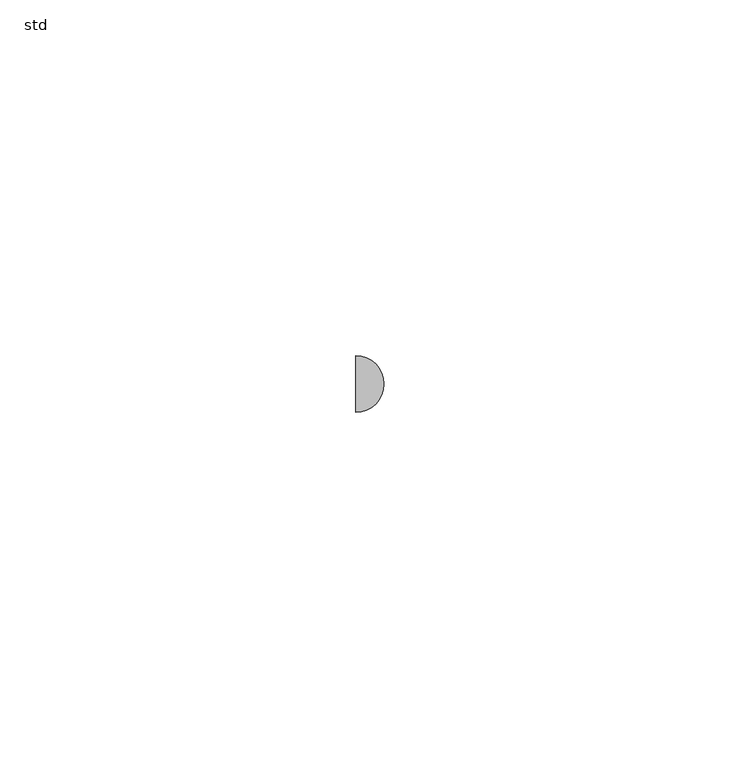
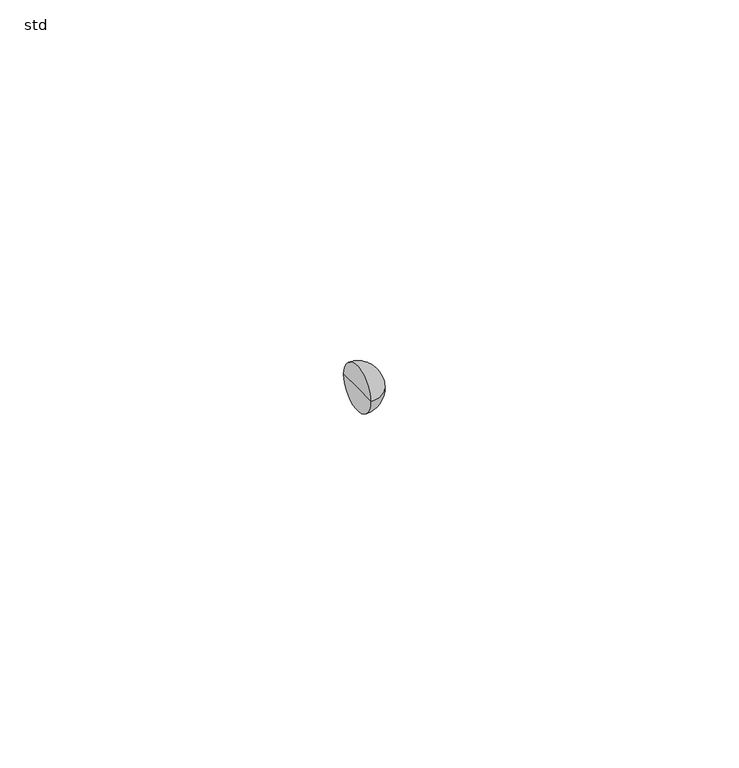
"""IFC4 building model written with IfcOpenShell, lengths in millimetres: pipe fitting geometry, PIF_ST_UN_GM-X double bend_ACO : std."""

import ifcopenshell
import ifcopenshell.guid

model = None  # the IFC model being written
_history = None  # IfcOwnerHistory: only IFC2X3 demands one
_inside = {}  # id of a spatial element -> (the spatial element, [elements in it])
_under = {}  # id of a project, library or spatial element -> (it, [spatial elements below it])
_declared = {}  # id of a project -> (the project, [libraries it declares])
_typed = {}  # id of a type object -> (the type object, [elements of that type])
_made_of = {}  # id of a material, layer set ... -> (it, [elements and type objects made of it])


def new_model(schema):
    """Start an empty IFC model of exactly this schema.

    Asked for "IFC4X3", IfcOpenShell would pick the latest addendum, in which some entities
    have other attributes; the version numbers below select the first issue.
    IFC2X3 requires an IfcOwnerHistory on every rooted entity: one is made here for all.
    """
    global model, _history
    if schema == "IFC4X3":
        model = ifcopenshell.file(schema_version=(4, 3, 0, 0))
    else:
        model = ifcopenshell.file(schema=schema)
    _inside.clear()
    _under.clear()
    _declared.clear()
    _typed.clear()
    _made_of.clear()
    _history = None
    if model.schema == "IFC2X3":
        org = make("IfcOrganization", Name="unknown")
        user = make(
            "IfcPersonAndOrganization",
            ThePerson=make("IfcPerson", FamilyName="unknown"),
            TheOrganization=org,
        )
        app = make(
            "IfcApplication",
            ApplicationDeveloper=org,
            Version="unknown",
            ApplicationFullName="unknown",
            ApplicationIdentifier="unknown",
        )
        _history = make(
            "IfcOwnerHistory",
            OwningUser=user,
            OwningApplication=app,
            ChangeAction="ADDED",
            CreationDate=0,
        )
    return model


def make(cls, **values):
    """One entity of the class cls with the attributes given. An attribute that is None is left unset."""
    return model.create_entity(
        cls, **{name: value for name, value in values.items() if value is not None}
    )


def rooted(cls, **values):
    """An entity with a GlobalId (a new one), such as an element, a storey or a relation."""
    return make(cls, GlobalId=ifcopenshell.guid.new(), OwnerHistory=_history, **values)


def si_unit(unit_type, name, prefix=None):
    """IfcSIUnit, for example si_unit("LENGTHUNIT", "METRE", prefix="MILLI")."""
    return make("IfcSIUnit", UnitType=unit_type, Prefix=prefix, Name=name)


def assignment(units):
    """IfcUnitAssignment: the units of a project."""
    return None if units is None else make("IfcUnitAssignment", Units=units)


def point(xyz):
    """IfcCartesianPoint."""
    return None if xyz is None else make("IfcCartesianPoint", Coordinates=xyz)


def direction(xyz):
    """IfcDirection."""
    return None if xyz is None else make("IfcDirection", DirectionRatios=xyz)


def frame(location, z_axis=None, x_axis=None):
    """IfcAxis2Placement3D, a coordinate frame: its origin and axes. An axis left out is left unset."""
    return make(
        "IfcAxis2Placement3D",
        Location=point(location),
        Axis=direction(z_axis),
        RefDirection=direction(x_axis),
    )


def origin():
    """The frame at (0, 0, 0) with its axes left unset."""
    return frame((0.0, 0.0, 0.0))


def place(relative_to, where):
    """IfcLocalPlacement: puts the frame where relative to a parent placement (None: the world)."""
    return make(
        "IfcLocalPlacement", PlacementRelTo=relative_to, RelativePlacement=where
    )


def context(
    kind, dimensions, precision=None, world=None, true_north=None, identifier=None
):
    """IfcGeometricRepresentationContext, for example the 3D "Model" context."""
    return make(
        "IfcGeometricRepresentationContext",
        ContextIdentifier=identifier,
        ContextType=kind,
        CoordinateSpaceDimension=dimensions,
        Precision=precision,
        WorldCoordinateSystem=world,
        TrueNorth=true_north,
    )


def project(units=None, contexts=None):
    """IfcProject with its units and contexts."""
    return rooted(
        "IfcProject",
        Name="project",
        RepresentationContexts=contexts,
        UnitsInContext=assignment(units),
    )


def spatial(cls, under=None, at=None, **own):
    """A site, building, storey or space (cls), placed at a placement, below another one or the project."""
    s = rooted(cls, ObjectPlacement=at, **own)
    if under is not None:
        _under.setdefault(under.id(), (under, []))[1].append(s)
    return s


def circle_curve(where, radius):
    """IfcCircle in the frame where."""
    return make("IfcCircle", Position=where, Radius=radius)


def ellipse_curve(where, semi_axis1, semi_axis2):
    """IfcEllipse in the frame where."""
    return make(
        "IfcEllipse", Position=where, SemiAxis1=semi_axis1, SemiAxis2=semi_axis2
    )


def trimmed(basis, trim1, trim2, sense, master):
    """IfcTrimmedCurve: the piece of a basis curve between two trims."""
    return make(
        "IfcTrimmedCurve",
        BasisCurve=basis,
        Trim1=trim1,
        Trim2=trim2,
        SenseAgreement=sense,
        MasterRepresentation=master,
    )


def shape(context_of_items, identifier, shape_type, items):
    """IfcShapeRepresentation: the items that make up one representation, for example the "Body"."""
    return make(
        "IfcShapeRepresentation",
        ContextOfItems=context_of_items,
        RepresentationIdentifier=identifier,
        RepresentationType=shape_type,
        Items=items,
    )


def source(mapping_origin, context_of_items, identifier, shape_type, items):
    """IfcRepresentationMap: a shape defined once, which mapped items show again and again."""
    return make(
        "IfcRepresentationMap",
        MappingOrigin=mapping_origin,
        MappedRepresentation=shape(context_of_items, identifier, shape_type, items),
    )


def transform(
    local_origin,
    x_axis=None,
    y_axis=None,
    z_axis=None,
    scale=None,
    scale2=None,
    scale3=None,
    uniform=True,
):
    """IfcCartesianTransformationOperator3D, or its non-uniform kind. x_axis, y_axis, z_axis: its Axis1, 2, 3."""
    if uniform:
        return make(
            "IfcCartesianTransformationOperator3D",
            Axis1=direction(x_axis),
            Axis2=direction(y_axis),
            LocalOrigin=point(local_origin),
            Scale=scale,
            Axis3=direction(z_axis),
        )
    return make(
        "IfcCartesianTransformationOperator3DnonUniform",
        Axis1=direction(x_axis),
        Axis2=direction(y_axis),
        LocalOrigin=point(local_origin),
        Scale=scale,
        Axis3=direction(z_axis),
        Scale2=scale2,
        Scale3=scale3,
    )


def mapped(mapping_source, mapping_target):
    """IfcMappedItem: shows the shape of a source again, moved by a transform."""
    return make(
        "IfcMappedItem", MappingSource=mapping_source, MappingTarget=mapping_target
    )


def made_of(thing, what):
    """Note that an element or type object is made of a material, layer set ...; save() writes the relation."""
    if what is not None:
        _made_of.setdefault(what.id(), (what, []))[1].append(thing)
    return thing


def element(
    cls,
    number,
    at=None,
    inside=None,
    cuts=None,
    type_object=None,
    material=None,
    context=None,
    identifier="Body",
    shape_type=None,
    held_by="IfcProductDefinitionShape",
    body=None,
    shapes=None,
    **own,
):
    """One element of the class cls, such as IfcWall. Its Tag is "e" and its number.

    at: its placement. inside: the storey or other place that contains it. cuts: it is an
    opening in that element (IfcRelVoidsElement). A single representation is given by context,
    identifier, shape_type and body (its items); several are given by shapes. held_by: the class
    of the entity that holds the representations. save() writes the other relations.
    """
    e = rooted(cls, Tag="e%d" % number, ObjectPlacement=at, **own)
    if body is not None:
        shapes = [shape(context, identifier, shape_type, body)]
    if shapes is not None:
        e.Representation = make(held_by, Representations=shapes)
    if inside is not None:
        _inside.setdefault(inside.id(), (inside, []))[1].append(e)
    if cuts is not None:
        rooted(
            "IfcRelVoidsElement", RelatingBuildingElement=cuts, RelatedOpeningElement=e
        )
    if type_object is not None:
        _typed.setdefault(type_object.id(), (type_object, []))[1].append(e)
    return made_of(e, material)


def aggregate(whole, parts):
    """IfcRelAggregates: a whole, such as a stair, and the parts it consists of."""
    return rooted("IfcRelAggregates", RelatingObject=whole, RelatedObjects=parts)


def save(model, path):
    """Write the relations noted so far, then the file.

    IfcRelAggregates (storeys below a building ...), IfcRelContainedInSpatialStructure (elements
    in a storey), IfcRelDefinesByType, IfcRelAssociatesMaterial and IfcRelDeclares: one each for
    every whole, place, type object, material and project.
    """
    for whole, parts in _under.values():
        aggregate(whole, parts)
    for where, things in _inside.values():
        rooted(
            "IfcRelContainedInSpatialStructure",
            RelatedElements=things,
            RelatingStructure=where,
        )
    for kind, things in _typed.values():
        rooted("IfcRelDefinesByType", RelatedObjects=things, RelatingType=kind)
    for what, things in _made_of.values():
        rooted("IfcRelAssociatesMaterial", RelatedObjects=things, RelatingMaterial=what)
    for by, libraries in _declared.values():
        rooted("IfcRelDeclares", RelatingContext=by, RelatedDefinitions=libraries)
    model.write(path)


def plane_surface(at):
    """IfcPlane: the flat surface through the origin of the frame at, square to its z axis."""
    return make("IfcPlane", Position=at)


def revolved_surface(curve, axis_point, axis_direction):
    """IfcSurfaceOfRevolution: the curve turned about the line through axis_point along axis_direction."""
    return make(
        "IfcSurfaceOfRevolution",
        SweptCurve=make("IfcArbitraryOpenProfileDef", ProfileType="CURVE", Curve=curve),
        AxisPosition=make("IfcAxis1Placement", Location=point(axis_point), Axis=direction(axis_direction)),
    )


def advanced_brep(points, edges, surfaces, faces):
    """IfcAdvancedBrep: a solid bounded by faces that lie on surfaces and meet in shared edges.

    An edge is (start, end): straight between two places in points (the first is 0);
    or (start, end, curve); or (start, end, curve, False) where it runs against its curve.
    A face is (place in surfaces, loops), or (place, loops, False) where it looks against
    its surface's normal. A loop lists edges by number (the first is 1), with a minus sign
    where the edge is run from its end to its start. The first loop is the outer one.
    """
    corners = [point(p) for p in points]
    vertices = [make("IfcVertexPoint", VertexGeometry=c) for c in corners]
    made = []
    for start, end, *more in edges:
        made.append(
            make(
                "IfcEdgeCurve",
                EdgeStart=vertices[start],
                EdgeEnd=vertices[end],
                EdgeGeometry=more[0] if more else make("IfcPolyline", Points=[corners[start], corners[end]]),
                SameSense=more[1] if len(more) > 1 else True,
            )
        )
    hull = []
    for where, loops, *sense in faces:
        bounds = []
        for j, loop in enumerate(loops):
            ring = [make("IfcOrientedEdge", EdgeElement=made[abs(k) - 1], Orientation=k > 0) for k in loop]
            bounds.append(
                make(
                    "IfcFaceOuterBound" if j == 0 else "IfcFaceBound",
                    Bound=make("IfcEdgeLoop", EdgeList=ring),
                    Orientation=True,
                )
            )
        hull.append(make("IfcAdvancedFace", Bounds=bounds, FaceSurface=surfaces[where], SameSense=sense[0] if sense else True))
    return make("IfcAdvancedBrep", Outer=make("IfcClosedShell", CfsFaces=hull))


def std_0ddcd905(model_context):
    return source(origin(), model_context, "Body", "AdvancedBrep", [
        advanced_brep(
        [(-249.8650071, -4.0, 0.0), (-249.8650071, 4.0, 0.0), (-245.8650071, 0.0, 0.0), (-249.8650071, 0.0, 0.0)],
        [
            (0, 1, circle_curve(frame((-249.8650071, 0.0, 0.0), z_axis=(1.0, 0.0, 0.0), x_axis=(0.0, 1.0, 0.0)), 4.0)),
            (1, 2, circle_curve(frame((-249.8650071, 0.0, 0.0), z_axis=(0.0, 0.0, -1.0), x_axis=(-1.0, 0.0, 0.0)), 4.0)),
            (2, 0, circle_curve(frame((-249.8650071, 0.0, 0.0), z_axis=(0.0, 0.0, -1.0), x_axis=(-1.0, 0.0, 0.0)), 4.0)),
            (1, 0, circle_curve(frame((-249.8650071, 0.0, 0.0), z_axis=(1.0, 0.0, 0.0), x_axis=(0.0, 1.0, 0.0)), 4.0)),
            (3, 1),
            (0, 3),
        ],
        [
            revolved_surface(trimmed(ellipse_curve(frame((-249.8650071, 0.0, 0.0), z_axis=(0.0, 0.0, 1.0), x_axis=(-1.0, 0.0, 0.0)), 4.0, 4.0), [point((-245.8650071, 0.0, 0.0))], [point((-249.8650071, 4.0, 0.0))], True, "CARTESIAN"), (-256.8566844, 0.0, 0.0), (-1.0, 0.0, 0.0)),
            plane_surface(frame((-249.8650071, 0.0, 0.0), z_axis=(-1.0, 0.0, 0.0), x_axis=(0.0, 1.0, 0.0))),
        ],
        [
            (0, [[1, 2, 3]]),
            (0, [[4, -3, -2]]),
            (1, [[5, -1, 6]]),
            (1, [[-6, -4, -5]]),
        ],
    ),
    ])


if __name__ == "__main__":
    model = new_model("IFC4")
    model_context = context("Model", 3, world=origin())
    ifc_project = project(units=[si_unit("LENGTHUNIT", "METRE", prefix="MILLI")], contexts=[model_context])
    site = spatial("IfcSite", under=ifc_project)
    building = spatial("IfcBuilding", under=site)
    placement = place(None, origin())
    std_shape = std_0ddcd905(model_context)
    element("IfcPipeFitting", 1, ObjectType="PIF_ST_UN_GM-X double bend_ACO : std", at=placement, inside=building, context=model_context, shape_type="MappedRepresentation", body=[
        mapped(std_shape, transform((0.0, 0.0, 0.0), x_axis=(1.0, 0.0, 0.0), y_axis=(0.0, 1.0, 0.0), z_axis=(0.0, 0.0, 1.0))),
    ])
    save(model, "model.ifc")
